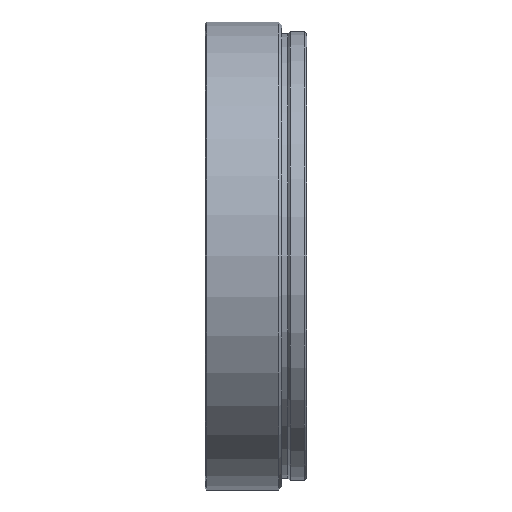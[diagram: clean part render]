
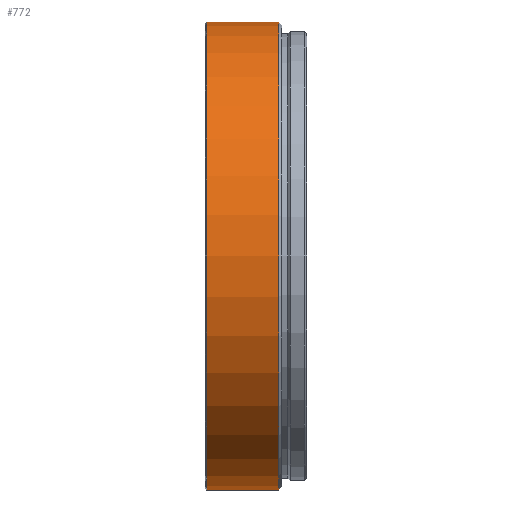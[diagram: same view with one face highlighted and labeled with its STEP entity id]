
A CAD part, front view. The second image highlights one B-rep face of the part: STEP entity #772.
In plain terms, the highlighted cylindrical face has radius 37.5 mm (diameter 75 mm), a partial arc.
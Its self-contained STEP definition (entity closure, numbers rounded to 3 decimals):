
#25 = FACE_OUTER_BOUND ( 'NONE', #635, .T. ) ;
#42 = LINE ( 'NONE', #436, #601 ) ;
#91 = DIRECTION ( 'NONE',  ( 0., 0., 1. ) ) ;
#94 = CARTESIAN_POINT ( 'NONE',  ( 0., 0., 37.5 ) ) ;
#100 = CARTESIAN_POINT ( 'NONE',  ( 0.2, 0., -37.5 ) ) ;
#113 = EDGE_CURVE ( 'NONE', #284, #771, #630, .T. ) ;
#139 = AXIS2_PLACEMENT_3D ( 'NONE', #581, #158, #654 ) ;
#147 = AXIS2_PLACEMENT_3D ( 'NONE', #689, #262, #762 ) ;
#158 = DIRECTION ( 'NONE',  ( -1., 0., 0. ) ) ;
#173 = ORIENTED_EDGE ( 'NONE', *, *, #818, .T. ) ;
#218 = CARTESIAN_POINT ( 'NONE',  ( 11.75, 0., -37.5 ) ) ;
#233 = LINE ( 'NONE', #94, #399 ) ;
#262 = DIRECTION ( 'NONE',  ( -1., 0., 0. ) ) ;
#284 = VERTEX_POINT ( 'NONE', #100 ) ;
#300 = CARTESIAN_POINT ( 'NONE',  ( 0., 0., 0. ) ) ;
#309 = VERTEX_POINT ( 'NONE', #218 ) ;
#345 = EDGE_CURVE ( 'NONE', #309, #470, #765, .T. ) ;
#351 = ORIENTED_EDGE ( 'NONE', *, *, #113, .F. ) ;
#367 = DIRECTION ( 'NONE',  ( -1., 0., 0. ) ) ;
#399 = VECTOR ( 'NONE', #733, 1000. ) ;
#436 = CARTESIAN_POINT ( 'NONE',  ( 0., 0., -37.5 ) ) ;
#470 = VERTEX_POINT ( 'NONE', #666 ) ;
#529 = EDGE_CURVE ( 'NONE', #309, #284, #42, .T. ) ;
#559 = AXIS2_PLACEMENT_3D ( 'NONE', #300, #804, #91 ) ;
#581 = CARTESIAN_POINT ( 'NONE',  ( 11.75, 0., 0. ) ) ;
#587 = CARTESIAN_POINT ( 'NONE',  ( 0.2, 0., 37.5 ) ) ;
#601 = VECTOR ( 'NONE', #367, 1000. ) ;
#630 = CIRCLE ( 'NONE', #147, 37.5 ) ;
#635 = EDGE_LOOP ( 'NONE', ( #817, #839, #173, #351 ) ) ;
#654 = DIRECTION ( 'NONE',  ( 0., 0., 1. ) ) ;
#666 = CARTESIAN_POINT ( 'NONE',  ( 11.75, 0., 37.5 ) ) ;
#689 = CARTESIAN_POINT ( 'NONE',  ( 0.2, 0., 0. ) ) ;
#733 = DIRECTION ( 'NONE',  ( -1., 0., 0. ) ) ;
#762 = DIRECTION ( 'NONE',  ( 0., 0., 1. ) ) ;
#765 = CIRCLE ( 'NONE', #139, 37.5 ) ;
#771 = VERTEX_POINT ( 'NONE', #587 ) ;
#772 = ADVANCED_FACE ( 'NONE', ( #25 ), #781, .T. ) ;
#781 = CYLINDRICAL_SURFACE ( 'NONE', #559, 37.5 ) ;
#804 = DIRECTION ( 'NONE',  ( -1., 0., 0. ) ) ;
#817 = ORIENTED_EDGE ( 'NONE', *, *, #529, .F. ) ;
#818 = EDGE_CURVE ( 'NONE', #470, #771, #233, .T. ) ;
#839 = ORIENTED_EDGE ( 'NONE', *, *, #345, .T. ) ;
